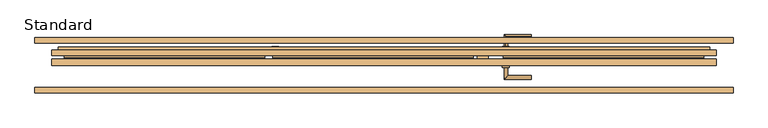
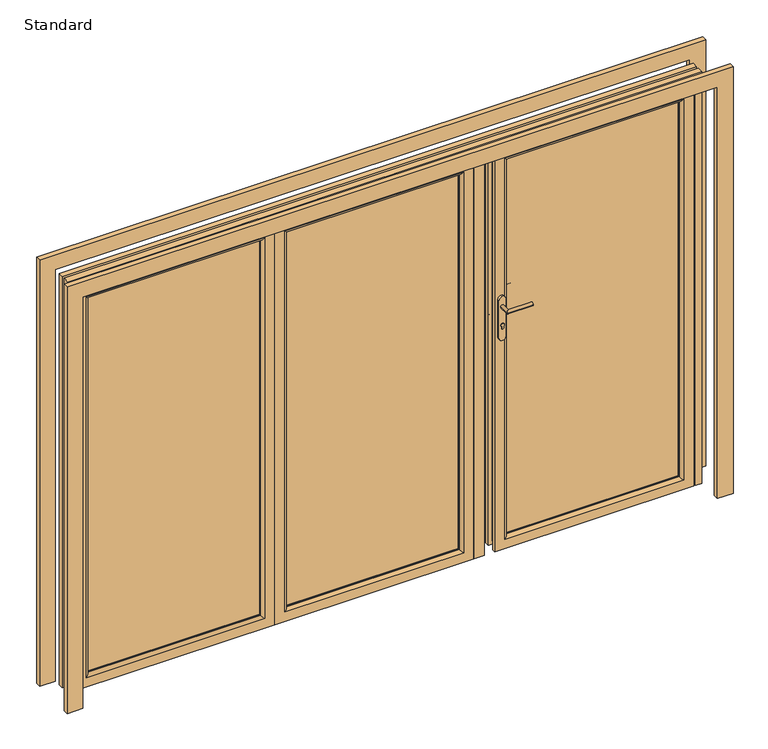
"""IFC4 building model written with IfcOpenShell, lengths in millimetres: door geometry, SMARTS_Visofold1000 : Standard."""

import ifcopenshell
import ifcopenshell.guid

model = None  # the IFC model being written
_history = None  # IfcOwnerHistory: only IFC2X3 demands one
_inside = {}  # id of a spatial element -> (the spatial element, [elements in it])
_under = {}  # id of a project, library or spatial element -> (it, [spatial elements below it])
_declared = {}  # id of a project -> (the project, [libraries it declares])
_typed = {}  # id of a type object -> (the type object, [elements of that type])
_made_of = {}  # id of a material, layer set ... -> (it, [elements and type objects made of it])


def new_model(schema):
    """Start an empty IFC model of exactly this schema.

    Asked for "IFC4X3", IfcOpenShell would pick the latest addendum, in which some entities
    have other attributes; the version numbers below select the first issue.
    IFC2X3 requires an IfcOwnerHistory on every rooted entity: one is made here for all.
    """
    global model, _history
    if schema == "IFC4X3":
        model = ifcopenshell.file(schema_version=(4, 3, 0, 0))
    else:
        model = ifcopenshell.file(schema=schema)
    _inside.clear()
    _under.clear()
    _declared.clear()
    _typed.clear()
    _made_of.clear()
    _history = None
    if model.schema == "IFC2X3":
        org = make("IfcOrganization", Name="unknown")
        user = make(
            "IfcPersonAndOrganization",
            ThePerson=make("IfcPerson", FamilyName="unknown"),
            TheOrganization=org,
        )
        app = make(
            "IfcApplication",
            ApplicationDeveloper=org,
            Version="unknown",
            ApplicationFullName="unknown",
            ApplicationIdentifier="unknown",
        )
        _history = make(
            "IfcOwnerHistory",
            OwningUser=user,
            OwningApplication=app,
            ChangeAction="ADDED",
            CreationDate=0,
        )
    return model


def make(cls, **values):
    """One entity of the class cls with the attributes given. An attribute that is None is left unset."""
    return model.create_entity(
        cls, **{name: value for name, value in values.items() if value is not None}
    )


def rooted(cls, **values):
    """An entity with a GlobalId (a new one), such as an element, a storey or a relation."""
    return make(cls, GlobalId=ifcopenshell.guid.new(), OwnerHistory=_history, **values)


def si_unit(unit_type, name, prefix=None):
    """IfcSIUnit, for example si_unit("LENGTHUNIT", "METRE", prefix="MILLI")."""
    return make("IfcSIUnit", UnitType=unit_type, Prefix=prefix, Name=name)


def assignment(units):
    """IfcUnitAssignment: the units of a project."""
    return None if units is None else make("IfcUnitAssignment", Units=units)


def point(xyz):
    """IfcCartesianPoint."""
    return None if xyz is None else make("IfcCartesianPoint", Coordinates=xyz)


def direction(xyz):
    """IfcDirection."""
    return None if xyz is None else make("IfcDirection", DirectionRatios=xyz)


def frame(location, z_axis=None, x_axis=None):
    """IfcAxis2Placement3D, a coordinate frame: its origin and axes. An axis left out is left unset."""
    return make(
        "IfcAxis2Placement3D",
        Location=point(location),
        Axis=direction(z_axis),
        RefDirection=direction(x_axis),
    )


def frame_2d(location, x_axis=None):
    """IfcAxis2Placement2D, a coordinate frame in the plane: its origin and x axis."""
    return make(
        "IfcAxis2Placement2D", Location=point(location), RefDirection=direction(x_axis)
    )


def origin():
    """The frame at (0, 0, 0) with its axes left unset."""
    return frame((0.0, 0.0, 0.0))


def origin_with_axes():
    """The frame at (0, 0, 0) with the z axis (0, 0, 1) and the x axis (1, 0, 0) written out."""
    return frame((0.0, 0.0, 0.0), z_axis=(0.0, 0.0, 1.0), x_axis=(1.0, 0.0, 0.0))


def place(relative_to, where):
    """IfcLocalPlacement: puts the frame where relative to a parent placement (None: the world)."""
    return make(
        "IfcLocalPlacement", PlacementRelTo=relative_to, RelativePlacement=where
    )


def context(
    kind, dimensions, precision=None, world=None, true_north=None, identifier=None
):
    """IfcGeometricRepresentationContext, for example the 3D "Model" context."""
    return make(
        "IfcGeometricRepresentationContext",
        ContextIdentifier=identifier,
        ContextType=kind,
        CoordinateSpaceDimension=dimensions,
        Precision=precision,
        WorldCoordinateSystem=world,
        TrueNorth=true_north,
    )


def project(units=None, contexts=None):
    """IfcProject with its units and contexts."""
    return rooted(
        "IfcProject",
        Name="project",
        RepresentationContexts=contexts,
        UnitsInContext=assignment(units),
    )


def spatial(cls, under=None, at=None, **own):
    """A site, building, storey or space (cls), placed at a placement, below another one or the project."""
    s = rooted(cls, ObjectPlacement=at, **own)
    if under is not None:
        _under.setdefault(under.id(), (under, []))[1].append(s)
    return s


def polyline(points):
    """IfcPolyline through the points."""
    return make("IfcPolyline", Points=[point(p) for p in points])


def circle_curve(where, radius):
    """IfcCircle in the frame where."""
    return make("IfcCircle", Position=where, Radius=radius)


def ellipse_curve(where, semi_axis1, semi_axis2):
    """IfcEllipse in the frame where."""
    return make(
        "IfcEllipse", Position=where, SemiAxis1=semi_axis1, SemiAxis2=semi_axis2
    )


def trimmed(basis, trim1, trim2, sense, master):
    """IfcTrimmedCurve: the piece of a basis curve between two trims."""
    return make(
        "IfcTrimmedCurve",
        BasisCurve=basis,
        Trim1=trim1,
        Trim2=trim2,
        SenseAgreement=sense,
        MasterRepresentation=master,
    )


def segment(curve, same_sense, transition):
    """IfcCompositeCurveSegment."""
    return make(
        "IfcCompositeCurveSegment",
        Transition=transition,
        SameSense=same_sense,
        ParentCurve=curve,
    )


def composite_curve(segments, self_intersect=None):
    """IfcCompositeCurve: segments joined end to end."""
    return make("IfcCompositeCurve", Segments=segments, SelfIntersect=self_intersect)


def outline(outer, holes=None, kind="AREA"):
    """IfcArbitraryClosedProfileDef: a profile drawn as a closed curve; with holes, ...WithVoids."""
    if holes is None:
        return make("IfcArbitraryClosedProfileDef", ProfileType=kind, OuterCurve=outer)
    return make(
        "IfcArbitraryProfileDefWithVoids",
        ProfileType=kind,
        OuterCurve=outer,
        InnerCurves=holes,
    )


def extrude(swept, where, along, depth):
    """IfcExtrudedAreaSolid: the profile swept, set in the frame where, extruded along a direction by depth."""
    return make(
        "IfcExtrudedAreaSolid",
        SweptArea=swept,
        Position=where,
        ExtrudedDirection=direction(along),
        Depth=depth,
    )


def faces_of(points, faces, orient=None, outer=None):
    """IfcFace entities. A face is a list of loops; a loop is a list of indices into points, from 0.

    orient and outer hold one flag for each loop. By default every Orientation is true, the
    first loop of a face is its IfcFaceOuterBound and the others are IfcFaceBound.
    """
    made = []
    for i, loops in enumerate(faces):
        bounds = []
        for j, loop in enumerate(loops):
            is_outer = j == 0 if outer is None else outer[i][j]
            bounds.append(
                make(
                    "IfcFaceOuterBound" if is_outer else "IfcFaceBound",
                    Bound=make("IfcPolyLoop", Polygon=[points[k] for k in loop]),
                    Orientation=True if orient is None else orient[i][j],
                )
            )
        made.append(make("IfcFace", Bounds=bounds))
    return made


def faceted_brep(points, faces, orient=None, outer=None, voids=None):
    """IfcFacetedBrep: a solid bounded by flat faces; with voids (closed shells), ...WithVoids."""
    shared = [point(p) for p in points]
    hull = make("IfcClosedShell", CfsFaces=faces_of(shared, faces, orient, outer))
    if voids is None:
        return make("IfcFacetedBrep", Outer=hull)
    return make(
        "IfcFacetedBrepWithVoids",
        Outer=hull,
        Voids=[
            make(cls, CfsFaces=faces_of(shared, fs, o, b)) for cls, fs, o, b in voids
        ],
    )


def shape(context_of_items, identifier, shape_type, items):
    """IfcShapeRepresentation: the items that make up one representation, for example the "Body"."""
    return make(
        "IfcShapeRepresentation",
        ContextOfItems=context_of_items,
        RepresentationIdentifier=identifier,
        RepresentationType=shape_type,
        Items=items,
    )


def source(mapping_origin, context_of_items, identifier, shape_type, items):
    """IfcRepresentationMap: a shape defined once, which mapped items show again and again."""
    return make(
        "IfcRepresentationMap",
        MappingOrigin=mapping_origin,
        MappedRepresentation=shape(context_of_items, identifier, shape_type, items),
    )


def transform(
    local_origin,
    x_axis=None,
    y_axis=None,
    z_axis=None,
    scale=None,
    scale2=None,
    scale3=None,
    uniform=True,
):
    """IfcCartesianTransformationOperator3D, or its non-uniform kind. x_axis, y_axis, z_axis: its Axis1, 2, 3."""
    if uniform:
        return make(
            "IfcCartesianTransformationOperator3D",
            Axis1=direction(x_axis),
            Axis2=direction(y_axis),
            LocalOrigin=point(local_origin),
            Scale=scale,
            Axis3=direction(z_axis),
        )
    return make(
        "IfcCartesianTransformationOperator3DnonUniform",
        Axis1=direction(x_axis),
        Axis2=direction(y_axis),
        LocalOrigin=point(local_origin),
        Scale=scale,
        Axis3=direction(z_axis),
        Scale2=scale2,
        Scale3=scale3,
    )


def mapped(mapping_source, mapping_target):
    """IfcMappedItem: shows the shape of a source again, moved by a transform."""
    return make(
        "IfcMappedItem", MappingSource=mapping_source, MappingTarget=mapping_target
    )


def made_of(thing, what):
    """Note that an element or type object is made of a material, layer set ...; save() writes the relation."""
    if what is not None:
        _made_of.setdefault(what.id(), (what, []))[1].append(thing)
    return thing


def element(
    cls,
    number,
    at=None,
    inside=None,
    cuts=None,
    type_object=None,
    material=None,
    context=None,
    identifier="Body",
    shape_type=None,
    held_by="IfcProductDefinitionShape",
    body=None,
    shapes=None,
    **own,
):
    """One element of the class cls, such as IfcWall. Its Tag is "e" and its number.

    at: its placement. inside: the storey or other place that contains it. cuts: it is an
    opening in that element (IfcRelVoidsElement). A single representation is given by context,
    identifier, shape_type and body (its items); several are given by shapes. held_by: the class
    of the entity that holds the representations. save() writes the other relations.
    """
    e = rooted(cls, Tag="e%d" % number, ObjectPlacement=at, **own)
    if body is not None:
        shapes = [shape(context, identifier, shape_type, body)]
    if shapes is not None:
        e.Representation = make(held_by, Representations=shapes)
    if inside is not None:
        _inside.setdefault(inside.id(), (inside, []))[1].append(e)
    if cuts is not None:
        rooted(
            "IfcRelVoidsElement", RelatingBuildingElement=cuts, RelatedOpeningElement=e
        )
    if type_object is not None:
        _typed.setdefault(type_object.id(), (type_object, []))[1].append(e)
    return made_of(e, material)


def aggregate(whole, parts):
    """IfcRelAggregates: a whole, such as a stair, and the parts it consists of."""
    return rooted("IfcRelAggregates", RelatingObject=whole, RelatedObjects=parts)


def save(model, path):
    """Write the relations noted so far, then the file.

    IfcRelAggregates (storeys below a building ...), IfcRelContainedInSpatialStructure (elements
    in a storey), IfcRelDefinesByType, IfcRelAssociatesMaterial and IfcRelDeclares: one each for
    every whole, place, type object, material and project.
    """
    for whole, parts in _under.values():
        aggregate(whole, parts)
    for where, things in _inside.values():
        rooted(
            "IfcRelContainedInSpatialStructure",
            RelatedElements=things,
            RelatingStructure=where,
        )
    for kind, things in _typed.values():
        rooted("IfcRelDefinesByType", RelatedObjects=things, RelatingType=kind)
    for what, things in _made_of.values():
        rooted("IfcRelAssociatesMaterial", RelatedObjects=things, RelatingMaterial=what)
    for by, libraries in _declared.values():
        rooted("IfcRelDeclares", RelatingContext=by, RelatedDefinitions=libraries)
    model.write(path)


def plane_surface(at):
    """IfcPlane: the flat surface through the origin of the frame at, square to its z axis."""
    return make("IfcPlane", Position=at)


def cylinder_surface(at, radius):
    """IfcCylindricalSurface: all points at the distance radius from the z axis of the frame at."""
    return make("IfcCylindricalSurface", Position=at, Radius=radius)


def advanced_brep(points, edges, surfaces, faces):
    """IfcAdvancedBrep: a solid bounded by faces that lie on surfaces and meet in shared edges.

    An edge is (start, end): straight between two places in points (the first is 0);
    or (start, end, curve); or (start, end, curve, False) where it runs against its curve.
    A face is (place in surfaces, loops), or (place, loops, False) where it looks against
    its surface's normal. A loop lists edges by number (the first is 1), with a minus sign
    where the edge is run from its end to its start. The first loop is the outer one.
    """
    corners = [point(p) for p in points]
    vertices = [make("IfcVertexPoint", VertexGeometry=c) for c in corners]
    made = []
    for start, end, *more in edges:
        made.append(
            make(
                "IfcEdgeCurve",
                EdgeStart=vertices[start],
                EdgeEnd=vertices[end],
                EdgeGeometry=more[0] if more else make("IfcPolyline", Points=[corners[start], corners[end]]),
                SameSense=more[1] if len(more) > 1 else True,
            )
        )
    hull = []
    for where, loops, *sense in faces:
        bounds = []
        for j, loop in enumerate(loops):
            ring = [make("IfcOrientedEdge", EdgeElement=made[abs(k) - 1], Orientation=k > 0) for k in loop]
            bounds.append(
                make(
                    "IfcFaceOuterBound" if j == 0 else "IfcFaceBound",
                    Bound=make("IfcEdgeLoop", EdgeList=ring),
                    Orientation=True,
                )
            )
        hull.append(make("IfcAdvancedFace", Bounds=bounds, FaceSurface=surfaces[where], SameSense=sense[0] if sense else True))
    return make("IfcAdvancedBrep", Outer=make("IfcClosedShell", CfsFaces=hull))


def standard_d20078e9(model_context):
    return source(origin(), model_context, "Body", "SolidModel", [
        advanced_brep(
        [(550.0, 75.0, 1232.5996413), (550.0, 75.0, 1215.5996413), (550.0, 130.0, 1215.5996413), (550.0, 130.0, 1232.5996413), (665.0, 130.0, 1232.5996413), (665.0, 130.0, 1215.5996413)],
        [
            (0, 1, circle_curve(frame((550.0, 75.0, 1224.0996413), z_axis=(0.0, -1.0, 0.0), x_axis=(0.0, 0.0, -1.0)), 8.5)),
            (1, 0, circle_curve(frame((550.0, 75.0, 1224.0996413), z_axis=(0.0, -1.0, 0.0), x_axis=(0.0, 0.0, -1.0)), 8.5)),
            (1, 2),
            (2, 3, ellipse_curve(frame((550.0, 130.0, 1224.0996413), z_axis=(-0.7071067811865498, -0.7071067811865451, 0.0), x_axis=(0.707106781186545, -0.70710678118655, 0.0)), 12.0208153, 8.5)),
            (3, 0),
            (3, 2, ellipse_curve(frame((550.0, 130.0, 1224.0996413), z_axis=(-0.7071067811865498, -0.7071067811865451, 0.0), x_axis=(0.707106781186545, -0.70710678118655, 0.0)), 12.0208153, 8.5)),
            (4, 5, circle_curve(frame((665.0, 130.0, 1224.0996413), z_axis=(1.0, 0.0, 0.0), x_axis=(0.0, 0.0, -1.0)), 8.5)),
            (5, 4, circle_curve(frame((665.0, 130.0, 1224.0996413), z_axis=(1.0, 0.0, 0.0), x_axis=(0.0, 0.0, -1.0)), 8.5)),
            (2, 5),
            (4, 3),
        ],
        [
            plane_surface(frame((550.0, 75.0, 1224.0996413), z_axis=(0.0, -1.0, 0.0), x_axis=(0.0, 0.0, -1.0))),
            cylinder_surface(frame((550.0, 75.0, 1224.0996413), z_axis=(0.0, -1.0, 0.0), x_axis=(0.0, 0.0, -1.0)), 8.5),
            plane_surface(frame((665.0, 130.0, 1224.0996413), z_axis=(1.0, 0.0, 0.0), x_axis=(0.0, 0.0, -1.0))),
            cylinder_surface(frame((550.0, 130.0, 1224.0996413), z_axis=(-1.0, 0.0, 0.0), x_axis=(0.0, 0.0, -1.0)), 8.5),
        ],
        [
            (0, [[1, 2]]),
            (1, [[-2, 3, 4, 5]]),
            (1, [[-1, -5, 6, -3]]),
            (2, [[7, 8]]),
            (3, [[-4, 9, -7, 10]]),
            (3, [[-6, -10, -8, -9]]),
        ],
    ),
        extrude(outline(composite_curve([segment(trimmed(circle_curve(frame_2d((1258.0996413, 550.0)), 16.0), [point((1258.0996413, 566.0))], [point((1258.0996413, 534.0))], False, "CARTESIAN"), True, "CONTINUOUS"), segment(polyline([(1258.0996413, 534.0), (1070.0996413, 534.0)]), True, "CONTINUOUS"), segment(trimmed(circle_curve(frame_2d((1070.0996413, 550.0)), 16.0), [point((1070.0996413, 534.0))], [point((1070.0996413, 566.0))], False, "CARTESIAN"), True, "CONTINUOUS"), segment(polyline([(1070.0996413, 566.0), (1258.0996413, 566.0)]), True, "CONTINUOUS")], self_intersect=False)), frame((0.0, 75.0, 0.0), z_axis=(0.0, 1.0, 0.0), x_axis=(0.0, 0.0, 1.0)), (0.0, 0.0, 1.0), 10.0),
        advanced_brep(
        [(558.5, 0.0, 1224.0996413), (541.5, 0.0, 1224.0996413), (558.5, -46.5, 1224.0996413), (541.5, -63.5, 1224.0996413), (665.0, -46.5, 1224.0996413), (665.0, -63.5, 1224.0996413)],
        [
            (0, 1, circle_curve(frame((550.0, 0.0, 1224.0996413), z_axis=(0.0, 1.0, 0.0), x_axis=(-1.0, 0.0, 0.0)), 8.5)),
            (1, 0, circle_curve(frame((550.0, 0.0, 1224.0996413), z_axis=(0.0, 1.0, 0.0), x_axis=(-1.0, 0.0, 0.0)), 8.5)),
            (0, 2),
            (2, 3, ellipse_curve(frame((550.0, -55.0, 1224.0996413), z_axis=(-0.7071067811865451, 0.7071067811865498, 0.0), x_axis=(0.7071067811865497, 0.7071067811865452, 0.0)), 12.0208153, 8.5)),
            (3, 1),
            (3, 2, ellipse_curve(frame((550.0, -55.0, 1224.0996413), z_axis=(-0.7071067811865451, 0.7071067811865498, 0.0), x_axis=(0.7071067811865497, 0.7071067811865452, 0.0)), 12.0208153, 8.5)),
            (4, 5, circle_curve(frame((665.0, -55.0, 1224.0996413), z_axis=(1.0, 0.0, 0.0), x_axis=(0.0, -1.0, 0.0)), 8.5)),
            (5, 4, circle_curve(frame((665.0, -55.0, 1224.0996413), z_axis=(1.0, 0.0, 0.0), x_axis=(0.0, -1.0, 0.0)), 8.5)),
            (2, 4),
            (5, 3),
        ],
        [
            plane_surface(frame((550.0, 0.0, 1224.0996413), z_axis=(0.0, 1.0, 0.0), x_axis=(0.0, 0.0, -1.0))),
            cylinder_surface(frame((550.0, 0.0, 1224.0996413), z_axis=(0.0, 1.0, 0.0), x_axis=(-1.0, 0.0, 0.0)), 8.5),
            plane_surface(frame((665.0, -55.0, 1224.0996413), z_axis=(1.0, 0.0, 0.0), x_axis=(0.0, 0.0, -1.0))),
            cylinder_surface(frame((550.0, -55.0, 1224.0996413), z_axis=(-1.0, 0.0, 0.0), x_axis=(0.0, -1.0, 0.0)), 8.5),
        ],
        [
            (0, [[1, 2]]),
            (1, [[-1, 3, 4, 5]]),
            (1, [[-2, -5, 6, -3]]),
            (2, [[7, 8]]),
            (3, [[-4, 9, -8, 10]]),
            (3, [[-6, -10, -7, -9]]),
        ],
    ),
        extrude(outline(composite_curve([segment(trimmed(circle_curve(frame_2d((1258.0996413, 550.0)), 16.0), [point((1258.0996413, 566.0))], [point((1258.0996413, 534.0))], False, "CARTESIAN"), True, "CONTINUOUS"), segment(polyline([(1258.0996413, 534.0), (1070.0996413, 534.0)]), True, "CONTINUOUS"), segment(trimmed(circle_curve(frame_2d((1070.0996413, 550.0)), 16.0), [point((1070.0996413, 534.0))], [point((1070.0996413, 566.0))], False, "CARTESIAN"), True, "CONTINUOUS"), segment(polyline([(1070.0996413, 566.0), (1258.0996413, 566.0)]), True, "CONTINUOUS")], self_intersect=False)), frame((0.0, -10.0, 0.0), z_axis=(0.0, 1.0, 0.0), x_axis=(0.0, 0.0, 1.0)), (0.0, 0.0, 1.0), 10.0),
        extrude(outline(composite_curve([segment(trimmed(circle_curve(frame_2d((1132.0996413, 550.0571906)), 8.5), [point((1125.1769586, 554.9893771))], [point((1125.27562, 544.9893771))], False, "CARTESIAN"), True, "CONTINUOUS"), segment(polyline([(1125.27562, 544.9893771), (1117.5996413, 544.9893771)]), True, "CONTINUOUS"), segment(trimmed(circle_curve(frame_2d((1117.5996413, 549.9893771)), 5.0), [point((1117.5996413, 544.9893771))], [point((1117.5996413, 554.9893771))], False, "CARTESIAN"), True, "CONTINUOUS"), segment(polyline([(1117.5996413, 554.9893771), (1125.1769586, 554.9893771)]), True, "CONTINUOUS")], self_intersect=False)), frame((0.0, 85.0, 0.0), z_axis=(0.0, 1.0, 0.0), x_axis=(0.0, 0.0, 1.0)), (0.0, 0.0, 1.0), 2.0),
        extrude(outline(composite_curve([segment(trimmed(circle_curve(frame_2d((1132.0996413, 550.0571906)), 8.5), [point((1125.1769586, 554.9893771))], [point((1125.27562, 544.9893771))], False, "CARTESIAN"), True, "CONTINUOUS"), segment(polyline([(1125.27562, 544.9893771), (1117.5996413, 544.9893771)]), True, "CONTINUOUS"), segment(trimmed(circle_curve(frame_2d((1117.5996413, 549.9893771)), 5.0), [point((1117.5996413, 544.9893771))], [point((1117.5996413, 554.9893771))], False, "CARTESIAN"), True, "CONTINUOUS"), segment(polyline([(1117.5996413, 554.9893771), (1125.1769586, 554.9893771)]), True, "CONTINUOUS")], self_intersect=False)), frame((0.0, -12.0, 0.0), z_axis=(0.0, 1.0, 0.0), x_axis=(0.0, 0.0, 1.0)), (0.0, 0.0, 1.0), 2.0),
        extrude(outline(polyline([(45.0, 565.0), (45.0, 1415.0), (1955.0, 1415.0), (1955.0, 565.0), (45.0, 565.0)]), holes=[polyline([(1939.5, 580.5), (1939.5, 1399.5), (60.5, 1399.5), (60.5, 580.5), (1939.5, 580.5)])]), frame((0.0, 17.4, 0.0), z_axis=(0.0, 1.0, 0.0), x_axis=(0.0, 0.0, 1.0)), (0.0, 0.0, 1.0), 35.0),
        faceted_brep([(520.0, 74.4, 0.0), (520.0, 52.4, 0.0), (520.0, 52.4, 2000.0), (520.0, 74.4, 2000.0), (580.5, 52.4, 60.5), (580.5, 74.4, 60.5), (580.5, 74.4, 1939.5), (580.5, 52.4, 1939.5), (1460.0, 74.4, 0.0), (1460.0, 52.4, 0.0), (1460.0, 52.4, 2000.0), (1460.0, 74.4, 2000.0), (1399.5, 74.4, 1939.5), (1399.5, 52.4, 1939.5), (1399.5, 74.4, 60.5), (1399.5, 52.4, 60.5), (537.8691481, 34.8, 17.8691481), (1442.1308519, 34.8, 17.8691481), (1442.1308519, 34.8, 1982.1308519), (537.8691481, 34.8, 1982.1308519), (565.0, 34.8, 1955.0), (1415.0, 34.8, 1955.0), (1415.0, 34.8, 45.0), (565.0, 34.8, 45.0), (537.8691481, 52.4, 17.8691481), (537.8691481, 52.4, 1982.1308519), (565.0, 52.4, 45.0), (565.0, 52.4, 1955.0), (1442.1308519, 52.4, 1982.1308519), (1415.0, 52.4, 1955.0), (1442.1308519, 52.4, 17.8691481), (1415.0, 52.4, 45.0)], [[[0, 1, 2, 3]], [[4, 5, 6, 7]], [[8, 9, 1, 0]], [[3, 2, 10, 11]], [[7, 6, 12, 13]], [[11, 10, 9, 8]], [[13, 12, 14, 15]], [[3, 11, 8, 0], [5, 14, 12, 6]], [[15, 14, 5, 4]], [[16, 17, 18, 19], [20, 21, 22, 23]], [[24, 16, 19, 25]], [[23, 26, 27, 20]], [[25, 19, 18, 28]], [[20, 27, 29, 21]], [[28, 18, 17, 30]], [[21, 29, 31, 22]], [[30, 17, 16, 24]], [[1, 9, 10, 2], [25, 28, 30, 24]], [[26, 31, 29, 27], [7, 13, 15, 4]], [[22, 31, 26, 23]]]),
        advanced_brep(
        [(580.5, 13.3, 60.5), (580.5, 17.4, 60.5), (580.5, 17.4, 1939.5), (580.5, 13.3, 1939.5), (520.0, 17.4, 0.0), (520.0, 0.0, 0.0), (520.0, 0.0, 2000.0), (520.0, 17.4, 2000.0), (1399.5, 17.4, 1939.5), (1399.5, 13.3, 1939.5), (1460.0, 0.0, 2000.0), (1460.0, 17.4, 2000.0), (1399.5, 17.4, 60.5), (1399.5, 13.3, 60.5), (1460.0, 0.0, 0.0), (1460.0, 17.4, 0.0), (567.2, 0.0, 1952.8), (1412.8, 0.0, 1952.8), (1412.8, 0.0, 47.2), (567.2, 0.0, 47.2), (537.8691481, 34.8, 17.8691481), (537.8691481, 17.4, 17.8691481), (537.8691481, 17.4, 1982.1308519), (537.8691481, 34.8, 1982.1308519), (1442.1308519, 17.4, 1982.1308519), (1442.1308519, 34.8, 1982.1308519), (1442.1308519, 17.4, 17.8691481), (1442.1308519, 34.8, 17.8691481), (565.0, 17.4, 45.0), (565.0, 34.8, 45.0), (565.0, 34.8, 1955.0), (565.0, 17.4, 1955.0), (1415.0, 34.8, 1955.0), (1415.0, 17.4, 1955.0), (1415.0, 34.8, 45.0), (1415.0, 17.4, 45.0)],
        [
            (0, 1),
            (1, 2),
            (2, 3),
            (3, 0),
            (4, 5),
            (5, 6),
            (6, 7),
            (7, 4),
            (2, 8),
            (8, 9),
            (9, 3),
            (6, 10),
            (10, 11),
            (11, 7),
            (8, 12),
            (12, 13),
            (13, 9),
            (10, 14),
            (14, 15),
            (15, 11),
            (12, 1),
            (0, 13),
            (5, 14),
            (16, 17),
            (17, 18),
            (18, 19),
            (19, 16),
            (4, 15),
            (19, 0, ellipse_curve(frame((567.2, 13.3, 47.2), z_axis=(-0.70710678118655, 0.0, 0.707106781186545), x_axis=(-0.707106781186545, 0.0, -0.7071067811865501)), 18.8090404, 13.3)),
            (3, 16, ellipse_curve(frame((567.2, 13.3, 1952.8), z_axis=(-0.7071067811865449, 0.0, -0.7071067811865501), x_axis=(0.7071067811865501, 0.0, -0.7071067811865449)), 18.8090404, 13.3)),
            (9, 17, ellipse_curve(frame((1412.8, 13.3, 1952.8), z_axis=(-0.7071067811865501, 0.0, 0.7071067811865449), x_axis=(-0.7071067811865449, 0.0, -0.7071067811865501)), 18.8090404, 13.3)),
            (13, 18, ellipse_curve(frame((1412.8, 13.3, 47.2), z_axis=(0.7071067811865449, 0.0, 0.70710678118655), x_axis=(-0.7071067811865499, 0.0, 0.707106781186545)), 18.8090404, 13.3)),
            (20, 21),
            (21, 22),
            (22, 23),
            (23, 20),
            (22, 24),
            (24, 25),
            (25, 23),
            (24, 26),
            (26, 27),
            (27, 25),
            (21, 26),
            (20, 27),
            (28, 29),
            (29, 30),
            (30, 31),
            (31, 28),
            (30, 32),
            (32, 33),
            (33, 31),
            (32, 34),
            (34, 35),
            (35, 33),
            (34, 29),
            (28, 35),
        ],
        [
            plane_surface(frame((580.5, 17.4, 60.5), z_axis=(1.0, 0.0, 0.0), x_axis=(0.0, 0.0, 1.0))),
            plane_surface(frame((520.0, 0.0, 0.0), z_axis=(-1.0, 0.0, 0.0), x_axis=(0.0, 0.0, 1.0))),
            plane_surface(frame((580.5, 17.4, 1939.5), z_axis=(0.0, 0.0, -1.0), x_axis=(1.0, 0.0, 0.0))),
            plane_surface(frame((520.0, 0.0, 2000.0), z_axis=(0.0, 0.0, 1.0), x_axis=(1.0, 0.0, 0.0))),
            plane_surface(frame((1399.5, 17.4, 1939.5), z_axis=(-1.0, 0.0, 0.0), x_axis=(0.0, 0.0, -1.0))),
            plane_surface(frame((1460.0, 0.0, 2000.0), z_axis=(1.0, 0.0, 0.0), x_axis=(0.0, 0.0, -1.0))),
            plane_surface(frame((1399.5, 17.4, 60.5), z_axis=(0.0, 0.0, 1.0), x_axis=(-1.0, 0.0, 0.0))),
            plane_surface(frame((1412.8, 0.0, 47.2), z_axis=(0.0, -1.0, 0.0), x_axis=(-1.0, 0.0, 0.0))),
            plane_surface(frame((1460.0, 0.0, 0.0), z_axis=(0.0, 0.0, -1.0), x_axis=(-1.0, 0.0, 0.0))),
            cylinder_surface(frame((567.2, 13.3, 0.0), z_axis=(0.0, 0.0, -1.0), x_axis=(0.0, 1.0, 0.0)), 13.3),
            cylinder_surface(frame((520.0, 13.3, 1952.8), z_axis=(-1.0, 0.0, 0.0), x_axis=(0.0, 1.0, 0.0)), 13.3),
            cylinder_surface(frame((1412.8, 13.3, 2000.0), z_axis=(0.0, 0.0, 1.0), x_axis=(0.0, 1.0, 0.0)), 13.3),
            cylinder_surface(frame((1460.0, 13.3, 47.2), z_axis=(1.0, 0.0, 0.0), x_axis=(0.0, 1.0, 0.0)), 13.3),
            plane_surface(frame((537.8691481, 17.4, 17.8691481), z_axis=(-1.0, 0.0, 0.0), x_axis=(0.0, 0.0, 1.0))),
            plane_surface(frame((537.8691481, 17.4, 1982.1308519), z_axis=(0.0, 0.0, 1.0), x_axis=(1.0, 0.0, 0.0))),
            plane_surface(frame((1442.1308519, 17.4, 1982.1308519), z_axis=(1.0, 0.0, 0.0), x_axis=(0.0, 0.0, -1.0))),
            plane_surface(frame((1460.0, 17.4, 0.0), z_axis=(0.0, 1.0, 0.0), x_axis=(-1.0, 0.0, 0.0))),
            plane_surface(frame((1442.1308519, 17.4, 17.8691481), z_axis=(0.0, 0.0, -1.0), x_axis=(-1.0, 0.0, 0.0))),
            plane_surface(frame((565.0, 34.8, 45.0), z_axis=(1.0, 0.0, 0.0), x_axis=(0.0, 0.0, 1.0))),
            plane_surface(frame((565.0, 34.8, 1955.0), z_axis=(0.0, 0.0, -1.0), x_axis=(1.0, 0.0, 0.0))),
            plane_surface(frame((1415.0, 34.8, 1955.0), z_axis=(-1.0, 0.0, 0.0), x_axis=(0.0, 0.0, -1.0))),
            plane_surface(frame((1415.0, 34.8, 45.0), z_axis=(0.0, 0.0, 1.0), x_axis=(-1.0, 0.0, 0.0))),
            plane_surface(frame((1415.0, 17.4, 45.0), z_axis=(0.0, 1.0, 0.0), x_axis=(-1.0, 0.0, 0.0))),
            plane_surface(frame((1442.1308519, 34.8, 17.8691481), z_axis=(0.0, 1.0, 0.0), x_axis=(-1.0, 0.0, 0.0))),
        ],
        [
            (0, [[1, 2, 3, 4]]),
            (1, [[5, 6, 7, 8]]),
            (2, [[-3, 9, 10, 11]]),
            (3, [[-7, 12, 13, 14]]),
            (4, [[-10, 15, 16, 17]]),
            (5, [[-13, 18, 19, 20]]),
            (6, [[-16, 21, -1, 22]]),
            (7, [[23, -18, -12, -6], [24, 25, 26, 27]]),
            (8, [[-19, -23, -5, 28]]),
            (9, [[29, -4, 30, -27]]),
            (10, [[-30, -11, 31, -24]]),
            (11, [[-31, -17, 32, -25]]),
            (12, [[-32, -22, -29, -26]]),
            (13, [[33, 34, 35, 36]]),
            (14, [[-35, 37, 38, 39]]),
            (15, [[-38, 40, 41, 42]]),
            (16, [[-14, -20, -28, -8], [43, -40, -37, -34]]),
            (17, [[-41, -43, -33, 44]]),
            (18, [[45, 46, 47, 48]]),
            (19, [[-47, 49, 50, 51]]),
            (20, [[-50, 52, 53, 54]]),
            (21, [[-53, 55, -45, 56]]),
            (22, [[-51, -54, -56, -48], [-21, -15, -9, -2]]),
            (23, [[-39, -42, -44, -36], [-55, -52, -49, -46]]),
        ],
    ),
        extrude(outline(polyline([(580.5, 50.1484783), (1399.5, 50.1484783), (1399.5, 21.4), (580.5, 21.4), (580.5, 50.1484783)])), frame((0.0, 0.0, 60.5), z_axis=(0.0, 0.0, 1.0), x_axis=(1.0, 0.0, 0.0)), (0.0, 0.0, 1.0), 1879.0),
        extrude(outline(composite_curve([segment(trimmed(circle_curve(frame_2d((1228.0996413, -490.0)), 16.0), [point((1228.0996413, -474.0))], [point((1228.0996413, -506.0))], False, "CARTESIAN"), True, "CONTINUOUS"), segment(polyline([(1228.0996413, -506.0), (1040.0996413, -506.0)]), True, "CONTINUOUS"), segment(trimmed(circle_curve(frame_2d((1040.0996413, -490.0)), 16.0), [point((1040.0996413, -506.0))], [point((1040.0996413, -474.0))], False, "CARTESIAN"), True, "CONTINUOUS"), segment(polyline([(1040.0996413, -474.0), (1228.0996413, -474.0)]), True, "CONTINUOUS")], self_intersect=False)), frame((0.0, 75.0, 0.0), z_axis=(0.0, 1.0, 0.0), x_axis=(0.0, 0.0, 1.0)), (0.0, 0.0, 1.0), 10.0),
        extrude(outline(polyline([(45.0, -475.0), (45.0, 375.0), (1955.0, 375.0), (1955.0, -475.0), (45.0, -475.0)]), holes=[polyline([(1939.5, -459.5), (1939.5, 359.5), (60.5, 359.5), (60.5, -459.5), (1939.5, -459.5)])]), frame((0.0, 17.4, 0.0), z_axis=(0.0, 1.0, 0.0), x_axis=(0.0, 0.0, 1.0)), (0.0, 0.0, 1.0), 35.0),
        faceted_brep([(-520.0, 74.4, 0.0), (-520.0, 52.4, 0.0), (-520.0, 52.4, 2000.0), (-520.0, 74.4, 2000.0), (-459.5, 52.4, 60.5), (-459.5, 74.4, 60.5), (-459.5, 74.4, 1939.5), (-459.5, 52.4, 1939.5), (420.0, 52.4, 2000.0), (420.0, 74.4, 2000.0), (359.5, 74.4, 1939.5), (359.5, 52.4, 1939.5), (420.0, 52.4, 0.0), (420.0, 74.4, 0.0), (359.5, 74.4, 60.5), (359.5, 52.4, 60.5), (-502.1308519, 34.8, 17.8691481), (402.1308519, 34.8, 17.8691481), (402.1308519, 34.8, 1982.1308519), (-502.1308519, 34.8, 1982.1308519), (-475.0, 34.8, 1955.0), (375.0, 34.8, 1955.0), (375.0, 34.8, 45.0), (-475.0, 34.8, 45.0), (-502.1308519, 52.4, 17.8691481), (-502.1308519, 52.4, 1982.1308519), (-475.0, 52.4, 45.0), (-475.0, 52.4, 1955.0), (402.1308519, 52.4, 1982.1308519), (375.0, 52.4, 1955.0), (402.1308519, 52.4, 17.8691481), (375.0, 52.4, 45.0)], [[[0, 1, 2, 3]], [[4, 5, 6, 7]], [[3, 2, 8, 9]], [[7, 6, 10, 11]], [[9, 8, 12, 13]], [[11, 10, 14, 15]], [[13, 12, 1, 0]], [[3, 9, 13, 0], [5, 14, 10, 6]], [[15, 14, 5, 4]], [[16, 17, 18, 19], [20, 21, 22, 23]], [[24, 16, 19, 25]], [[23, 26, 27, 20]], [[25, 19, 18, 28]], [[20, 27, 29, 21]], [[28, 18, 17, 30]], [[21, 29, 31, 22]], [[30, 17, 16, 24]], [[1, 12, 8, 2], [25, 28, 30, 24]], [[26, 31, 29, 27], [7, 11, 15, 4]], [[22, 31, 26, 23]]]),
        advanced_brep(
        [(-459.5, 13.3, 60.5), (-459.5, 17.4, 60.5), (-459.5, 17.4, 1939.5), (-459.5, 13.3, 1939.5), (-520.0, 17.4, 0.0), (-520.0, 0.0, 0.0), (-520.0, 0.0, 2000.0), (-520.0, 17.4, 2000.0), (359.5, 17.4, 1939.5), (359.5, 13.3, 1939.5), (420.0, 0.0, 2000.0), (420.0, 17.4, 2000.0), (359.5, 17.4, 60.5), (359.5, 13.3, 60.5), (420.0, 0.0, 0.0), (420.0, 17.4, 0.0), (-472.8, 0.0, 1952.8), (372.8, 0.0, 1952.8), (372.8, 0.0, 47.2), (-472.8, 0.0, 47.2), (-502.1308519, 34.8, 17.8691481), (-502.1308519, 17.4, 17.8691481), (-502.1308519, 17.4, 1982.1308519), (-502.1308519, 34.8, 1982.1308519), (402.1308519, 17.4, 1982.1308519), (402.1308519, 34.8, 1982.1308519), (402.1308519, 17.4, 17.8691481), (402.1308519, 34.8, 17.8691481), (-475.0, 17.4, 45.0), (-475.0, 34.8, 45.0), (-475.0, 34.8, 1955.0), (-475.0, 17.4, 1955.0), (375.0, 34.8, 1955.0), (375.0, 17.4, 1955.0), (375.0, 34.8, 45.0), (375.0, 17.4, 45.0)],
        [
            (0, 1),
            (1, 2),
            (2, 3),
            (3, 0),
            (4, 5),
            (5, 6),
            (6, 7),
            (7, 4),
            (2, 8),
            (8, 9),
            (9, 3),
            (6, 10),
            (10, 11),
            (11, 7),
            (8, 12),
            (12, 13),
            (13, 9),
            (10, 14),
            (14, 15),
            (15, 11),
            (12, 1),
            (0, 13),
            (5, 14),
            (16, 17),
            (17, 18),
            (18, 19),
            (19, 16),
            (4, 15),
            (19, 0, ellipse_curve(frame((-472.8, 13.3, 47.2), z_axis=(-0.70710678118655, 0.0, 0.707106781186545), x_axis=(-0.707106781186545, 0.0, -0.7071067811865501)), 18.8090404, 13.3)),
            (3, 16, ellipse_curve(frame((-472.8, 13.3, 1952.8), z_axis=(-0.7071067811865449, 0.0, -0.7071067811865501), x_axis=(0.7071067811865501, 0.0, -0.7071067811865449)), 18.8090404, 13.3)),
            (9, 17, ellipse_curve(frame((372.8, 13.3, 1952.8), z_axis=(-0.7071067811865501, 0.0, 0.7071067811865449), x_axis=(-0.7071067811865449, 0.0, -0.7071067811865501)), 18.8090404, 13.3)),
            (13, 18, ellipse_curve(frame((372.8, 13.3, 47.2), z_axis=(0.7071067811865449, 0.0, 0.70710678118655), x_axis=(-0.7071067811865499, 0.0, 0.707106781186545)), 18.8090404, 13.3)),
            (20, 21),
            (21, 22),
            (22, 23),
            (23, 20),
            (22, 24),
            (24, 25),
            (25, 23),
            (24, 26),
            (26, 27),
            (27, 25),
            (21, 26),
            (20, 27),
            (28, 29),
            (29, 30),
            (30, 31),
            (31, 28),
            (30, 32),
            (32, 33),
            (33, 31),
            (32, 34),
            (34, 35),
            (35, 33),
            (34, 29),
            (28, 35),
        ],
        [
            plane_surface(frame((-459.5, 17.4, 60.5), z_axis=(1.0, 0.0, 0.0), x_axis=(0.0, 0.0, 1.0))),
            plane_surface(frame((-520.0, 0.0, 0.0), z_axis=(-1.0, 0.0, 0.0), x_axis=(0.0, 0.0, 1.0))),
            plane_surface(frame((-459.5, 17.4, 1939.5), z_axis=(0.0, 0.0, -1.0), x_axis=(1.0, 0.0, 0.0))),
            plane_surface(frame((-520.0, 0.0, 2000.0), z_axis=(0.0, 0.0, 1.0), x_axis=(1.0, 0.0, 0.0))),
            plane_surface(frame((359.5, 17.4, 1939.5), z_axis=(-1.0, 0.0, 0.0), x_axis=(0.0, 0.0, -1.0))),
            plane_surface(frame((420.0, 0.0, 2000.0), z_axis=(1.0, 0.0, 0.0), x_axis=(0.0, 0.0, -1.0))),
            plane_surface(frame((359.5, 17.4, 60.5), z_axis=(0.0, 0.0, 1.0), x_axis=(-1.0, 0.0, 0.0))),
            plane_surface(frame((372.8, 0.0, 47.2), z_axis=(0.0, -1.0, 0.0), x_axis=(-1.0, 0.0, 0.0))),
            plane_surface(frame((420.0, 0.0, 0.0), z_axis=(0.0, 0.0, -1.0), x_axis=(-1.0, 0.0, 0.0))),
            cylinder_surface(frame((-472.8, 13.3, 0.0), z_axis=(0.0, 0.0, -1.0), x_axis=(0.0, 1.0, 0.0)), 13.3),
            cylinder_surface(frame((-520.0, 13.3, 1952.8), z_axis=(-1.0, 0.0, 0.0), x_axis=(0.0, 1.0, 0.0)), 13.3),
            cylinder_surface(frame((372.8, 13.3, 2000.0), z_axis=(0.0, 0.0, 1.0), x_axis=(0.0, 1.0, 0.0)), 13.3),
            cylinder_surface(frame((420.0, 13.3, 47.2), z_axis=(1.0, 0.0, 0.0), x_axis=(0.0, 1.0, 0.0)), 13.3),
            plane_surface(frame((-502.1308519, 17.4, 17.8691481), z_axis=(-1.0, 0.0, 0.0), x_axis=(0.0, 0.0, 1.0))),
            plane_surface(frame((-502.1308519, 17.4, 1982.1308519), z_axis=(0.0, 0.0, 1.0), x_axis=(1.0, 0.0, 0.0))),
            plane_surface(frame((402.1308519, 17.4, 1982.1308519), z_axis=(1.0, 0.0, 0.0), x_axis=(0.0, 0.0, -1.0))),
            plane_surface(frame((420.0, 17.4, 0.0), z_axis=(0.0, 1.0, 0.0), x_axis=(-1.0, 0.0, 0.0))),
            plane_surface(frame((402.1308519, 17.4, 17.8691481), z_axis=(0.0, 0.0, -1.0), x_axis=(-1.0, 0.0, 0.0))),
            plane_surface(frame((-475.0, 34.8, 45.0), z_axis=(1.0, 0.0, 0.0), x_axis=(0.0, 0.0, 1.0))),
            plane_surface(frame((-475.0, 34.8, 1955.0), z_axis=(0.0, 0.0, -1.0), x_axis=(1.0, 0.0, 0.0))),
            plane_surface(frame((375.0, 34.8, 1955.0), z_axis=(-1.0, 0.0, 0.0), x_axis=(0.0, 0.0, -1.0))),
            plane_surface(frame((375.0, 34.8, 45.0), z_axis=(0.0, 0.0, 1.0), x_axis=(-1.0, 0.0, 0.0))),
            plane_surface(frame((375.0, 17.4, 45.0), z_axis=(0.0, 1.0, 0.0), x_axis=(-1.0, 0.0, 0.0))),
            plane_surface(frame((402.1308519, 34.8, 17.8691481), z_axis=(0.0, 1.0, 0.0), x_axis=(-1.0, 0.0, 0.0))),
        ],
        [
            (0, [[1, 2, 3, 4]]),
            (1, [[5, 6, 7, 8]]),
            (2, [[-3, 9, 10, 11]]),
            (3, [[-7, 12, 13, 14]]),
            (4, [[-10, 15, 16, 17]]),
            (5, [[-13, 18, 19, 20]]),
            (6, [[-16, 21, -1, 22]]),
            (7, [[23, -18, -12, -6], [24, 25, 26, 27]]),
            (8, [[-19, -23, -5, 28]]),
            (9, [[29, -4, 30, -27]]),
            (10, [[-30, -11, 31, -24]]),
            (11, [[-31, -17, 32, -25]]),
            (12, [[-32, -22, -29, -26]]),
            (13, [[33, 34, 35, 36]]),
            (14, [[-35, 37, 38, 39]]),
            (15, [[-38, 40, 41, 42]]),
            (16, [[-14, -20, -28, -8], [43, -40, -37, -34]]),
            (17, [[-41, -43, -33, 44]]),
            (18, [[45, 46, 47, 48]]),
            (19, [[-47, 49, 50, 51]]),
            (20, [[-50, 52, 53, 54]]),
            (21, [[-53, 55, -45, 56]]),
            (22, [[-51, -54, -56, -48], [-21, -15, -9, -2]]),
            (23, [[-39, -42, -44, -36], [-55, -52, -49, -46]]),
        ],
    ),
        extrude(outline(polyline([(-459.5, 50.1484783), (359.5, 50.1484783), (359.5, 21.4), (-459.5, 21.4), (-459.5, 50.1484783)])), frame((0.0, 0.0, 60.5), z_axis=(0.0, 0.0, 1.0), x_axis=(1.0, 0.0, 0.0)), (0.0, 0.0, 1.0), 1879.0),
        extrude(outline(polyline([(45.0, -565.0), (1955.0, -565.0), (1955.0, -1415.0), (45.0, -1415.0), (45.0, -565.0)]), holes=[polyline([(1939.5, -580.5), (60.5, -580.5), (60.5, -1399.5), (1939.5, -1399.5), (1939.5, -580.5)])]), frame((0.0, 17.4, 0.0), z_axis=(0.0, 1.0, 0.0), x_axis=(0.0, 0.0, 1.0)), (0.0, 0.0, 1.0), 35.0),
        faceted_brep([(-520.0, 74.4, 0.0), (-520.0, 74.4, 2000.0), (-520.0, 52.4, 2000.0), (-520.0, 52.4, 0.0), (-580.5, 52.4, 60.5), (-580.5, 52.4, 1939.5), (-580.5, 74.4, 1939.5), (-580.5, 74.4, 60.5), (-1460.0, 74.4, 0.0), (-1460.0, 52.4, 0.0), (-1460.0, 74.4, 2000.0), (-1460.0, 52.4, 2000.0), (-1399.5, 52.4, 1939.5), (-1399.5, 74.4, 1939.5), (-1399.5, 52.4, 60.5), (-1399.5, 74.4, 60.5), (-537.8691481, 34.8, 17.8691481), (-537.8691481, 34.8, 1982.1308519), (-1442.1308519, 34.8, 1982.1308519), (-1442.1308519, 34.8, 17.8691481), (-565.0, 34.8, 1955.0), (-565.0, 34.8, 45.0), (-1415.0, 34.8, 45.0), (-1415.0, 34.8, 1955.0), (-537.8691481, 52.4, 17.8691481), (-537.8691481, 52.4, 1982.1308519), (-565.0, 52.4, 1955.0), (-565.0, 52.4, 45.0), (-1442.1308519, 52.4, 1982.1308519), (-1415.0, 52.4, 1955.0), (-1442.1308519, 52.4, 17.8691481), (-1415.0, 52.4, 45.0)], [[[0, 1, 2, 3]], [[4, 5, 6, 7]], [[8, 0, 3, 9]], [[1, 10, 11, 2]], [[5, 12, 13, 6]], [[10, 8, 9, 11]], [[12, 14, 15, 13]], [[1, 0, 8, 10], [7, 6, 13, 15]], [[14, 4, 7, 15]], [[16, 17, 18, 19], [20, 21, 22, 23]], [[24, 25, 17, 16]], [[21, 20, 26, 27]], [[25, 28, 18, 17]], [[20, 23, 29, 26]], [[28, 30, 19, 18]], [[23, 22, 31, 29]], [[30, 24, 16, 19]], [[3, 2, 11, 9], [25, 24, 30, 28]], [[27, 26, 29, 31], [5, 4, 14, 12]], [[22, 21, 27, 31]]]),
        advanced_brep(
        [(-580.5, 13.3, 60.5), (-580.5, 13.3, 1939.5), (-580.5, 17.4, 1939.5), (-580.5, 17.4, 60.5), (-520.0, 17.4, 0.0), (-520.0, 17.4, 2000.0), (-520.0, 0.0, 2000.0), (-520.0, 0.0, 0.0), (-1399.5, 13.3, 1939.5), (-1399.5, 17.4, 1939.5), (-1460.0, 17.4, 2000.0), (-1460.0, 0.0, 2000.0), (-1399.5, 13.3, 60.5), (-1399.5, 17.4, 60.5), (-1460.0, 17.4, 0.0), (-1460.0, 0.0, 0.0), (-567.2, 0.0, 1952.8), (-567.2, 0.0, 47.2), (-1412.8, 0.0, 47.2), (-1412.8, 0.0, 1952.8), (-537.8691481, 34.8, 17.8691481), (-537.8691481, 34.8, 1982.1308519), (-537.8691481, 17.4, 1982.1308519), (-537.8691481, 17.4, 17.8691481), (-1442.1308519, 34.8, 1982.1308519), (-1442.1308519, 17.4, 1982.1308519), (-1442.1308519, 34.8, 17.8691481), (-1442.1308519, 17.4, 17.8691481), (-565.0, 17.4, 45.0), (-565.0, 17.4, 1955.0), (-565.0, 34.8, 1955.0), (-565.0, 34.8, 45.0), (-1415.0, 17.4, 1955.0), (-1415.0, 34.8, 1955.0), (-1415.0, 17.4, 45.0), (-1415.0, 34.8, 45.0)],
        [
            (0, 1),
            (1, 2),
            (2, 3),
            (3, 0),
            (4, 5),
            (5, 6),
            (6, 7),
            (7, 4),
            (1, 8),
            (8, 9),
            (9, 2),
            (5, 10),
            (10, 11),
            (11, 6),
            (8, 12),
            (12, 13),
            (13, 9),
            (10, 14),
            (14, 15),
            (15, 11),
            (12, 0),
            (3, 13),
            (15, 7),
            (16, 17),
            (17, 18),
            (18, 19),
            (19, 16),
            (14, 4),
            (16, 1, ellipse_curve(frame((-567.2, 13.3, 1952.8), z_axis=(0.7071067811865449, 0.0, -0.7071067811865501), x_axis=(-0.7071067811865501, 0.0, -0.7071067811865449)), 18.8090404, 13.3)),
            (0, 17, ellipse_curve(frame((-567.2, 13.3, 47.2), z_axis=(0.70710678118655, 0.0, 0.707106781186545), x_axis=(0.707106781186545, 0.0, -0.7071067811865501)), 18.8090404, 13.3)),
            (19, 8, ellipse_curve(frame((-1412.8, 13.3, 1952.8), z_axis=(0.7071067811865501, 0.0, 0.7071067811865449), x_axis=(0.7071067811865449, 0.0, -0.7071067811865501)), 18.8090404, 13.3)),
            (18, 12, ellipse_curve(frame((-1412.8, 13.3, 47.2), z_axis=(-0.7071067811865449, 0.0, 0.70710678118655), x_axis=(0.7071067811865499, 0.0, 0.707106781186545)), 18.8090404, 13.3)),
            (20, 21),
            (21, 22),
            (22, 23),
            (23, 20),
            (21, 24),
            (24, 25),
            (25, 22),
            (24, 26),
            (26, 27),
            (27, 25),
            (27, 23),
            (26, 20),
            (28, 29),
            (29, 30),
            (30, 31),
            (31, 28),
            (29, 32),
            (32, 33),
            (33, 30),
            (32, 34),
            (34, 35),
            (35, 33),
            (34, 28),
            (31, 35),
        ],
        [
            plane_surface(frame((-580.5, 17.4, 60.5), z_axis=(-1.0, 0.0, 0.0), x_axis=(0.0, 0.0, 1.0))),
            plane_surface(frame((-520.0, 0.0, 0.0), z_axis=(1.0, 0.0, 0.0), x_axis=(0.0, 0.0, 1.0))),
            plane_surface(frame((-580.5, 17.4, 1939.5), z_axis=(0.0, 0.0, -1.0), x_axis=(-1.0, 0.0, 0.0))),
            plane_surface(frame((-520.0, 0.0, 2000.0), z_axis=(0.0, 0.0, 1.0), x_axis=(-1.0, 0.0, 0.0))),
            plane_surface(frame((-1399.5, 17.4, 1939.5), z_axis=(1.0, 0.0, 0.0), x_axis=(0.0, 0.0, -1.0))),
            plane_surface(frame((-1460.0, 0.0, 2000.0), z_axis=(-1.0, 0.0, 0.0), x_axis=(0.0, 0.0, -1.0))),
            plane_surface(frame((-1399.5, 17.4, 60.5), z_axis=(0.0, 0.0, 1.0), x_axis=(1.0, 0.0, 0.0))),
            plane_surface(frame((-1412.8, 0.0, 47.2), z_axis=(0.0, -1.0, 0.0), x_axis=(1.0, 0.0, 0.0))),
            plane_surface(frame((-1460.0, 0.0, 0.0), z_axis=(0.0, 0.0, -1.0), x_axis=(1.0, 0.0, 0.0))),
            cylinder_surface(frame((-567.2, 13.3, 0.0), z_axis=(0.0, 0.0, -1.0), x_axis=(0.0, 1.0, 0.0)), 13.3),
            cylinder_surface(frame((-520.0, 13.3, 1952.8), z_axis=(1.0, 0.0, 0.0), x_axis=(0.0, 1.0, 0.0)), 13.3),
            cylinder_surface(frame((-1412.8, 13.3, 2000.0), z_axis=(0.0, 0.0, 1.0), x_axis=(0.0, 1.0, 0.0)), 13.3),
            cylinder_surface(frame((-1460.0, 13.3, 47.2), z_axis=(-1.0, 0.0, 0.0), x_axis=(0.0, 1.0, 0.0)), 13.3),
            plane_surface(frame((-537.8691481, 17.4, 17.8691481), z_axis=(1.0, 0.0, 0.0), x_axis=(0.0, 0.0, 1.0))),
            plane_surface(frame((-537.8691481, 17.4, 1982.1308519), z_axis=(0.0, 0.0, 1.0), x_axis=(-1.0, 0.0, 0.0))),
            plane_surface(frame((-1442.1308519, 17.4, 1982.1308519), z_axis=(-1.0, 0.0, 0.0), x_axis=(0.0, 0.0, -1.0))),
            plane_surface(frame((-1460.0, 17.4, 0.0), z_axis=(0.0, 1.0, 0.0), x_axis=(1.0, 0.0, 0.0))),
            plane_surface(frame((-1442.1308519, 17.4, 17.8691481), z_axis=(0.0, 0.0, -1.0), x_axis=(1.0, 0.0, 0.0))),
            plane_surface(frame((-565.0, 34.8, 45.0), z_axis=(-1.0, 0.0, 0.0), x_axis=(0.0, 0.0, 1.0))),
            plane_surface(frame((-565.0, 34.8, 1955.0), z_axis=(0.0, 0.0, -1.0), x_axis=(-1.0, 0.0, 0.0))),
            plane_surface(frame((-1415.0, 34.8, 1955.0), z_axis=(1.0, 0.0, 0.0), x_axis=(0.0, 0.0, -1.0))),
            plane_surface(frame((-1415.0, 34.8, 45.0), z_axis=(0.0, 0.0, 1.0), x_axis=(1.0, 0.0, 0.0))),
            plane_surface(frame((-1415.0, 17.4, 45.0), z_axis=(0.0, 1.0, 0.0), x_axis=(1.0, 0.0, 0.0))),
            plane_surface(frame((-1442.1308519, 34.8, 17.8691481), z_axis=(0.0, 1.0, 0.0), x_axis=(1.0, 0.0, 0.0))),
        ],
        [
            (0, [[1, 2, 3, 4]]),
            (1, [[5, 6, 7, 8]]),
            (2, [[9, 10, 11, -2]]),
            (3, [[12, 13, 14, -6]]),
            (4, [[15, 16, 17, -10]]),
            (5, [[18, 19, 20, -13]]),
            (6, [[21, -4, 22, -16]]),
            (7, [[-7, -14, -20, 23], [24, 25, 26, 27]]),
            (8, [[28, -8, -23, -19]]),
            (9, [[-24, 29, -1, 30]]),
            (10, [[-27, 31, -9, -29]]),
            (11, [[-26, 32, -15, -31]]),
            (12, [[-25, -30, -21, -32]]),
            (13, [[33, 34, 35, 36]]),
            (14, [[37, 38, 39, -34]]),
            (15, [[40, 41, 42, -38]]),
            (16, [[-5, -28, -18, -12], [-35, -39, -42, 43]]),
            (17, [[44, -36, -43, -41]]),
            (18, [[45, 46, 47, 48]]),
            (19, [[49, 50, 51, -46]]),
            (20, [[52, 53, 54, -50]]),
            (21, [[55, -48, 56, -53]]),
            (22, [[-45, -55, -52, -49], [-3, -11, -17, -22]]),
            (23, [[-33, -44, -40, -37], [-47, -51, -54, -56]]),
        ],
    ),
        extrude(outline(polyline([(-580.5, 50.1484783), (-580.5, 21.4), (-1399.5, 21.4), (-1399.5, 50.1484783), (-580.5, 50.1484783)])), frame((0.0, 0.0, 60.5), z_axis=(0.0, 0.0, 1.0), x_axis=(1.0, 0.0, 0.0)), (0.0, 0.0, 1.0), 1879.0),
        extrude(outline(polyline([(470.0, 0.0), (420.0, 0.0), (420.0, 75.1750992), (470.0, 75.1750992), (470.0, 0.0)])), origin_with_axes(), (0.0, 0.0, 1.0), 2000.0),
        extrude(outline(polyline([(2058.6516063, -1500.0), (2058.6516063, 1500.0), (0.0, 1500.0), (0.0, 1575.0), (2133.6516063, 1575.0), (2133.6516063, -1575.0), (0.0, -1575.0), (0.0, -1500.0), (2058.6516063, -1500.0)])), frame((0.0, 100.0, 0.0), z_axis=(0.0, 1.0, 0.0), x_axis=(0.0, 0.0, 1.0)), (0.0, 0.0, 1.0), 25.0),
        extrude(outline(polyline([(2133.6516063, -1575.0), (0.0, -1575.0), (0.0, -1500.0), (2058.6516063, -1500.0), (2058.6516063, 1500.0), (0.0, 1500.0), (0.0, 1575.0), (2133.6516063, 1575.0), (2133.6516063, -1575.0)])), frame((0.0, -125.0, 0.0), z_axis=(0.0, 1.0, 0.0), x_axis=(0.0, 0.0, 1.0)), (0.0, 0.0, 1.0), 25.0),
        extrude(outline(polyline([(0.0, 1468.8), (0.0, 1500.0), (2058.6516063, 1500.0), (2058.6516063, -1500.0), (0.0, -1500.0), (0.0, -1468.8), (2027.4516063, -1468.8), (2027.4516063, 1468.8), (0.0, 1468.8)])), frame((0.0, 0.0, 0.0), z_axis=(0.0, 1.0, 0.0), x_axis=(0.0, 0.0, 1.0)), (0.0, 0.0, 1.0), 29.65),
        faceted_brep([(1500.0, 44.85, 0.0), (1468.8, 44.85, 0.0), (1468.8, 77.4, 0.0), (1448.3, 77.4, 0.0), (1448.3, 81.9, 0.0), (1470.6, 81.9, 0.0), (1470.6, 70.0, 0.0), (1500.0, 70.0, 0.0), (1500.0, 44.85, 2058.6516063), (-1500.0, 44.85, 2058.6516063), (-1500.0, 44.85, 0.0), (-1468.8, 44.85, 0.0), (-1468.8, 44.85, 2027.4516063), (1468.8, 44.85, 2027.4516063), (1468.8, 77.4, 2027.4516063), (-1468.8, 77.4, 2027.4516063), (-1468.8, 77.4, 0.0), (-1448.3, 77.4, 0.0), (-1448.3, 77.4, 2006.9516063), (1448.3, 77.4, 2006.9516063), (1448.3, 81.9, 2006.9516063), (-1448.3, 81.9, 2006.9516063), (-1448.3, 81.9, 0.0), (-1470.6, 81.9, 0.0), (-1470.6, 81.9, 2029.2516063), (1470.6, 81.9, 2029.2516063), (1470.6, 70.0, 2029.2516063), (-1470.6, 70.0, 2029.2516063), (-1470.6, 70.0, 0.0), (-1500.0, 70.0, 0.0), (-1500.0, 70.0, 2058.6516063), (1500.0, 70.0, 2058.6516063)], [[[0, 1, 2, 3, 4, 5, 6, 7]], [[1, 0, 8, 9, 10, 11, 12, 13]], [[2, 1, 13, 14]], [[3, 2, 14, 15, 16, 17, 18, 19]], [[4, 3, 19, 20]], [[5, 4, 20, 21, 22, 23, 24, 25]], [[6, 5, 25, 26]], [[7, 6, 26, 27, 28, 29, 30, 31]], [[0, 7, 31, 8]], [[10, 29, 28, 23, 22, 17, 16, 11]], [[9, 30, 29, 10]], [[27, 24, 23, 28]], [[21, 18, 17, 22]], [[15, 12, 11, 16]], [[8, 31, 30, 9]], [[14, 13, 12, 15]], [[26, 25, 24, 27]], [[20, 19, 18, 21]]]),
    ])


if __name__ == "__main__":
    model = new_model("IFC4")
    model_context = context("Model", 3, world=origin())
    ifc_project = project(units=[si_unit("LENGTHUNIT", "METRE", prefix="MILLI")], contexts=[model_context])
    site = spatial("IfcSite", under=ifc_project)
    building = spatial("IfcBuilding", under=site)
    placement = place(None, origin())
    standard_shape = standard_d20078e9(model_context)
    element("IfcDoor", 1, ObjectType="SMARTS_Visofold1000 : Standard", at=placement, inside=building, context=model_context, shape_type="MappedRepresentation", body=[
        mapped(standard_shape, transform((0.0, 0.0, 0.0), x_axis=(1.0, 0.0, 0.0), y_axis=(0.0, 1.0, 0.0), z_axis=(0.0, 0.0, 1.0))),
    ])
    save(model, "model.ifc")
